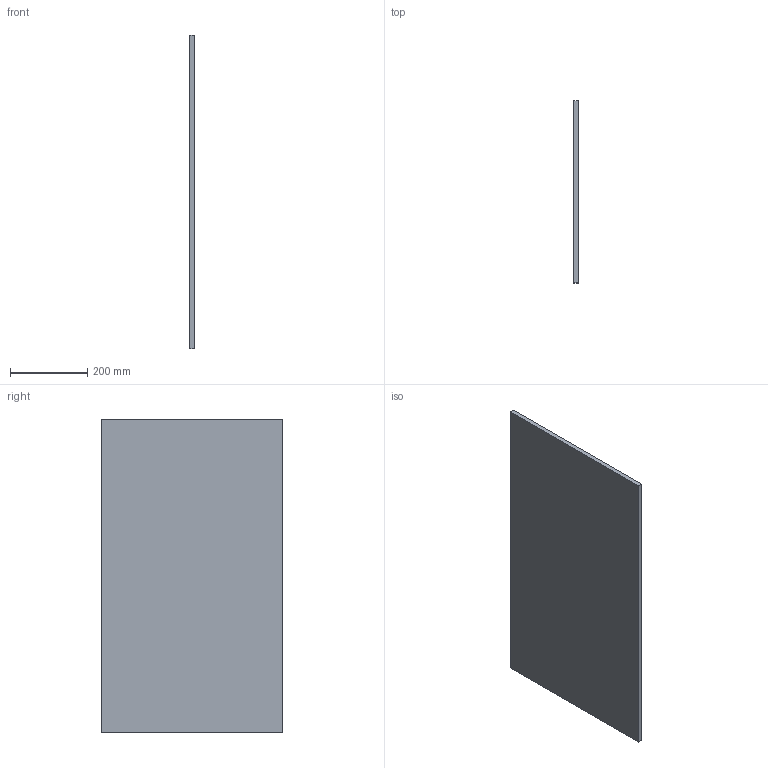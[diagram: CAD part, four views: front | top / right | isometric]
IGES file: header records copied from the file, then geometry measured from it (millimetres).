
Start section: Data from Parasolid IGES Translator 19.0.9, Copyright(c) 2006 Siemens PL M Software. All Rights Reserved.
Global section: file name: noorth-SI-H 81,2 D 47 W 1,2_9705.igs; native system: By Siemens PLM Incorporated; preprocessor: XPlus GENERIC/IGES 19.0.9; author: Noname; organization: Noname; date: 20200710.084448; units: metre
Bounding box: 12 x 470 x 812 mm (x, y, z)
Volume: 4579680 mm3; surface area: 794048 mm2
Topology: 1 solids, 1 shells, 6 faces, 12 edges, 8 vertices
Faces by surface type: plane 6
